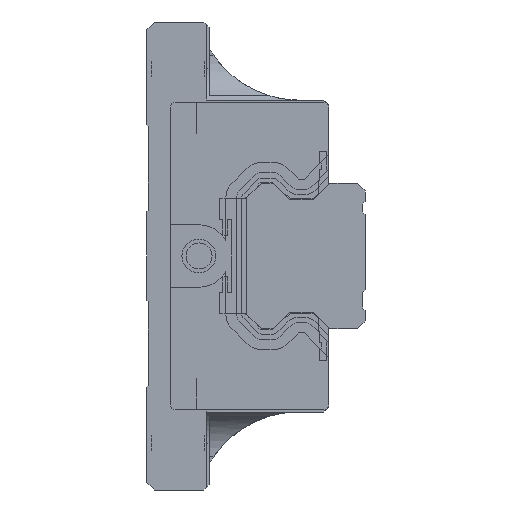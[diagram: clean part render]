
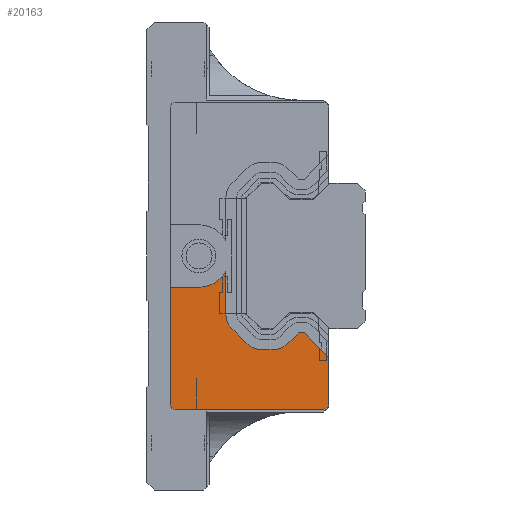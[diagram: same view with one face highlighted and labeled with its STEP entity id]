
A CAD part, left-side view. The second image highlights one B-rep face of the part: STEP entity #20163.
In plain terms, the highlighted planar face has unit normal (-1, 0, 0).
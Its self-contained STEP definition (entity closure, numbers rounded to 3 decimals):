
#115 = VERTEX_POINT ( 'NONE', #20153 ) ;
#368 = VERTEX_POINT ( 'NONE', #837 ) ;
#823 = EDGE_CURVE ( 'NONE', #4919, #17676, #23250, .T. ) ;
#837 = CARTESIAN_POINT ( 'NONE',  ( -12.5, 17.701, -18. ) ) ;
#921 = CARTESIAN_POINT ( 'NONE',  ( -12.5, 32., 0. ) ) ;
#1057 = CARTESIAN_POINT ( 'NONE',  ( -12.5, 17.701, -14. ) ) ;
#1181 = VECTOR ( 'NONE', #1231, 1000. ) ;
#1231 = DIRECTION ( 'NONE',  ( 0., 0., 1. ) ) ;
#1478 = LINE ( 'NONE', #3624, #13955 ) ;
#1490 = CARTESIAN_POINT ( 'NONE',  ( -12.5, 37.5, -6. ) ) ;
#1667 = VECTOR ( 'NONE', #15521, 1000. ) ;
#1731 = DIRECTION ( 'NONE',  ( 0., -0.707, 0.707 ) ) ;
#1836 = DIRECTION ( 'NONE',  ( 0., 0., -1. ) ) ;
#1840 = EDGE_CURVE ( 'NONE', #5377, #4919, #4673, .T. ) ;
#1951 = DIRECTION ( 'NONE',  ( 1., 0., 0. ) ) ;
#2145 = EDGE_CURVE ( 'NONE', #5744, #5899, #1478, .T. ) ;
#2406 = CARTESIAN_POINT ( 'NONE',  ( -12.5, 14.872, -16.828 ) ) ;
#2494 = ORIENTED_EDGE ( 'NONE', *, *, #4571, .F. ) ;
#2719 = LINE ( 'NONE', #3106, #5294 ) ;
#2769 = VERTEX_POINT ( 'NONE', #21350 ) ;
#2821 = DIRECTION ( 'NONE',  ( 1., 0., 0. ) ) ;
#2911 = ORIENTED_EDGE ( 'NONE', *, *, #8124, .T. ) ;
#3106 = CARTESIAN_POINT ( 'NONE',  ( -12.5, 8., -29.5 ) ) ;
#3610 = CARTESIAN_POINT ( 'NONE',  ( -12.5, 26.8, 28.5 ) ) ;
#3624 = CARTESIAN_POINT ( 'NONE',  ( -12.5, 14.872, -16.828 ) ) ;
#3760 = ORIENTED_EDGE ( 'NONE', *, *, #1840, .T. ) ;
#3826 = ORIENTED_EDGE ( 'NONE', *, *, #9446, .F. ) ;
#3952 = EDGE_LOOP ( 'NONE', ( #13947, #3760, #6151, #2494, #3826, #15512, #6097, #18079, #6703, #14955, #13294, #2911, #15717, #15236, #6823, #14571 ) ) ;
#4329 = AXIS2_PLACEMENT_3D ( 'NONE', #15261, #11099, #11337 ) ;
#4571 = EDGE_CURVE ( 'NONE', #115, #17676, #14790, .T. ) ;
#4673 = CIRCLE ( 'NONE', #24970, 6. ) ;
#4919 = VERTEX_POINT ( 'NONE', #13222 ) ;
#4976 = DIRECTION ( 'NONE',  ( 0., -0.707, -0.707 ) ) ;
#5294 = VECTOR ( 'NONE', #8809, 1000. ) ;
#5377 = VERTEX_POINT ( 'NONE', #14622 ) ;
#5680 = CIRCLE ( 'NONE', #23993, 4. ) ;
#5744 = VERTEX_POINT ( 'NONE', #2406 ) ;
#5899 = VERTEX_POINT ( 'NONE', #23216 ) ;
#6026 = VERTEX_POINT ( 'NONE', #24574 ) ;
#6097 = ORIENTED_EDGE ( 'NONE', *, *, #11058, .F. ) ;
#6151 = ORIENTED_EDGE ( 'NONE', *, *, #823, .T. ) ;
#6703 = ORIENTED_EDGE ( 'NONE', *, *, #9741, .F. ) ;
#6722 = VERTEX_POINT ( 'NONE', #9870 ) ;
#6823 = ORIENTED_EDGE ( 'NONE', *, *, #13446, .F. ) ;
#6866 = DIRECTION ( 'NONE',  ( 0., 0., -1. ) ) ;
#6878 = LINE ( 'NONE', #19955, #7157 ) ;
#6941 = VECTOR ( 'NONE', #24499, 1000. ) ;
#7157 = VECTOR ( 'NONE', #4976, 1000. ) ;
#7334 = DIRECTION ( 'NONE',  ( 0., 0., -1. ) ) ;
#7664 = CARTESIAN_POINT ( 'NONE',  ( -12.5, 19.944, -18. ) ) ;
#7907 = EDGE_CURVE ( 'NONE', #17760, #24533, #17816, .T. ) ;
#7929 = LINE ( 'NONE', #7664, #9802 ) ;
#8106 = VERTEX_POINT ( 'NONE', #16017 ) ;
#8124 = EDGE_CURVE ( 'NONE', #5744, #368, #5680, .T. ) ;
#8597 = CARTESIAN_POINT ( 'NONE',  ( -12.5, 12.843, -14.8 ) ) ;
#8809 = DIRECTION ( 'NONE',  ( 0., 1., 0. ) ) ;
#8875 = AXIS2_PLACEMENT_3D ( 'NONE', #9265, #24776, #7334 ) ;
#8877 = DIRECTION ( 'NONE',  ( 1., 0., 0. ) ) ;
#9138 = PLANE ( 'NONE',  #8875 ) ;
#9265 = CARTESIAN_POINT ( 'NONE',  ( -12.5, 8., 28.5 ) ) ;
#9321 = LINE ( 'NONE', #3610, #19655 ) ;
#9429 = CIRCLE ( 'NONE', #12652, 1. ) ;
#9446 = EDGE_CURVE ( 'NONE', #8106, #115, #9429, .T. ) ;
#9741 = EDGE_CURVE ( 'NONE', #6026, #17328, #10505, .T. ) ;
#9802 = VECTOR ( 'NONE', #19603, 1000. ) ;
#9843 = EDGE_CURVE ( 'NONE', #2769, #368, #7929, .T. ) ;
#9870 = CARTESIAN_POINT ( 'NONE',  ( -12.5, 8., -29.5 ) ) ;
#10030 = CARTESIAN_POINT ( 'NONE',  ( -12.5, 26.8, -11.144 ) ) ;
#10169 = DIRECTION ( 'NONE',  ( 1., 0., 0. ) ) ;
#10306 = CIRCLE ( 'NONE', #24121, 1. ) ;
#10430 = DIRECTION ( 'NONE',  ( 0., 0., -1. ) ) ;
#10505 = LINE ( 'NONE', #16331, #6941 ) ;
#10782 = DIRECTION ( 'NONE',  ( 0., 0., -1. ) ) ;
#11058 = EDGE_CURVE ( 'NONE', #24308, #6722, #10306, .T. ) ;
#11099 = DIRECTION ( 'NONE',  ( 1., 0., 0. ) ) ;
#11224 = CARTESIAN_POINT ( 'NONE',  ( -12.5, 7., -19.457 ) ) ;
#11337 = DIRECTION ( 'NONE',  ( 0., 0., -1. ) ) ;
#11945 = EDGE_CURVE ( 'NONE', #24533, #5377, #9321, .T. ) ;
#12652 = AXIS2_PLACEMENT_3D ( 'NONE', #20772, #8877, #10782 ) ;
#12748 = EDGE_CURVE ( 'NONE', #2769, #19455, #21747, .T. ) ;
#13222 = CARTESIAN_POINT ( 'NONE',  ( -12.5, 32., -6. ) ) ;
#13294 = ORIENTED_EDGE ( 'NONE', *, *, #2145, .F. ) ;
#13446 = EDGE_CURVE ( 'NONE', #17760, #19455, #6878, .T. ) ;
#13947 = ORIENTED_EDGE ( 'NONE', *, *, #11945, .T. ) ;
#13955 = VECTOR ( 'NONE', #1731, 1000. ) ;
#13987 = EDGE_CURVE ( 'NONE', #17328, #24308, #22921, .T. ) ;
#14335 = LINE ( 'NONE', #8597, #20413 ) ;
#14571 = ORIENTED_EDGE ( 'NONE', *, *, #7907, .T. ) ;
#14622 = CARTESIAN_POINT ( 'NONE',  ( -12.5, 26.8, -2.993 ) ) ;
#14790 = LINE ( 'NONE', #24242, #1181 ) ;
#14843 = EDGE_CURVE ( 'NONE', #6722, #8106, #2719, .T. ) ;
#14955 = ORIENTED_EDGE ( 'NONE', *, *, #23078, .F. ) ;
#15236 = ORIENTED_EDGE ( 'NONE', *, *, #12748, .T. ) ;
#15261 = CARTESIAN_POINT ( 'NONE',  ( -12.5, 19.944, -14. ) ) ;
#15374 = DIRECTION ( 'NONE',  ( 1., 0., 0. ) ) ;
#15512 = ORIENTED_EDGE ( 'NONE', *, *, #14843, .F. ) ;
#15521 = DIRECTION ( 'NONE',  ( 0., 0., -1. ) ) ;
#15717 = ORIENTED_EDGE ( 'NONE', *, *, #9843, .F. ) ;
#15889 = CARTESIAN_POINT ( 'NONE',  ( -12.5, 7., -19.457 ) ) ;
#16017 = CARTESIAN_POINT ( 'NONE',  ( -12.5, 36.5, -29.5 ) ) ;
#16331 = CARTESIAN_POINT ( 'NONE',  ( -12.5, 11.657, -14.8 ) ) ;
#17328 = VERTEX_POINT ( 'NONE', #15889 ) ;
#17676 = VERTEX_POINT ( 'NONE', #1490 ) ;
#17760 = VERTEX_POINT ( 'NONE', #18968 ) ;
#17816 = CIRCLE ( 'NONE', #24764, 4. ) ;
#18079 = ORIENTED_EDGE ( 'NONE', *, *, #13987, .F. ) ;
#18968 = CARTESIAN_POINT ( 'NONE',  ( -12.5, 25.628, -13.973 ) ) ;
#19010 = CARTESIAN_POINT ( 'NONE',  ( -12.5, 8., -6. ) ) ;
#19124 = CARTESIAN_POINT ( 'NONE',  ( -12.5, 22.773, -16.828 ) ) ;
#19455 = VERTEX_POINT ( 'NONE', #19124 ) ;
#19567 = CARTESIAN_POINT ( 'NONE',  ( -12.5, 8., -28.5 ) ) ;
#19603 = DIRECTION ( 'NONE',  ( 0., -1., 0. ) ) ;
#19655 = VECTOR ( 'NONE', #22648, 1000. ) ;
#19955 = CARTESIAN_POINT ( 'NONE',  ( -12.5, 25.628, -13.973 ) ) ;
#20153 = CARTESIAN_POINT ( 'NONE',  ( -12.5, 37.5, -28.5 ) ) ;
#20163 = ADVANCED_FACE ( 'NONE', ( #20438 ), #9138, .F. ) ;
#20413 = VECTOR ( 'NONE', #21953, 1000. ) ;
#20438 = FACE_OUTER_BOUND ( 'NONE', #3952, .T. ) ;
#20772 = CARTESIAN_POINT ( 'NONE',  ( -12.5, 36.5, -28.5 ) ) ;
#21296 = DIRECTION ( 'NONE',  ( 0., 1., 0. ) ) ;
#21350 = CARTESIAN_POINT ( 'NONE',  ( -12.5, 19.944, -18. ) ) ;
#21723 = DIRECTION ( 'NONE',  ( 0., 0., -1. ) ) ;
#21747 = CIRCLE ( 'NONE', #4329, 4. ) ;
#21953 = DIRECTION ( 'NONE',  ( 0., -1., 0. ) ) ;
#22648 = DIRECTION ( 'NONE',  ( 0., 0., 1. ) ) ;
#22818 = VECTOR ( 'NONE', #21296, 1000. ) ;
#22921 = LINE ( 'NONE', #11224, #1667 ) ;
#23078 = EDGE_CURVE ( 'NONE', #5899, #6026, #14335, .T. ) ;
#23216 = CARTESIAN_POINT ( 'NONE',  ( -12.5, 12.843, -14.8 ) ) ;
#23250 = LINE ( 'NONE', #19010, #22818 ) ;
#23301 = CARTESIAN_POINT ( 'NONE',  ( -12.5, 22.8, -11.144 ) ) ;
#23993 = AXIS2_PLACEMENT_3D ( 'NONE', #1057, #2821, #6866 ) ;
#24050 = CARTESIAN_POINT ( 'NONE',  ( -12.5, 7., -28.5 ) ) ;
#24121 = AXIS2_PLACEMENT_3D ( 'NONE', #19567, #15374, #1836 ) ;
#24242 = CARTESIAN_POINT ( 'NONE',  ( -12.5, 37.5, -28.5 ) ) ;
#24308 = VERTEX_POINT ( 'NONE', #24050 ) ;
#24499 = DIRECTION ( 'NONE',  ( 0., -0.707, -0.707 ) ) ;
#24533 = VERTEX_POINT ( 'NONE', #10030 ) ;
#24574 = CARTESIAN_POINT ( 'NONE',  ( -12.5, 11.657, -14.8 ) ) ;
#24764 = AXIS2_PLACEMENT_3D ( 'NONE', #23301, #1951, #21723 ) ;
#24776 = DIRECTION ( 'NONE',  ( 1., 0., 0. ) ) ;
#24970 = AXIS2_PLACEMENT_3D ( 'NONE', #921, #10169, #10430 ) ;
